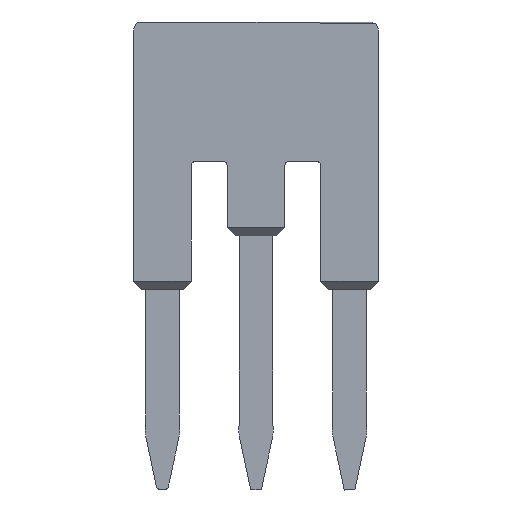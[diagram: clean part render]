
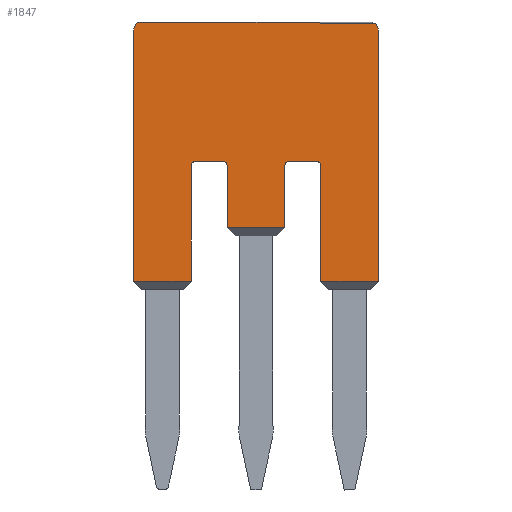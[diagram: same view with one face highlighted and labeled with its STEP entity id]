
A CAD part, front view. The second image highlights one B-rep face of the part: STEP entity #1847.
In plain terms, the highlighted planar face has unit normal (0, -1, 0).
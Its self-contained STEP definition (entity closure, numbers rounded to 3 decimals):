
#29 = VERTEX_POINT ( 'NONE', #2501 ) ;
#85 = CARTESIAN_POINT ( 'NONE',  ( 31.5, -1.45, 12.104 ) ) ;
#87 = DIRECTION ( 'NONE',  ( 0., 0., -1. ) ) ;
#161 = EDGE_CURVE ( 'NONE', #841, #645, #207, .T. ) ;
#204 = CIRCLE ( 'NONE', #777, 0.2 ) ;
#207 = LINE ( 'NONE', #2734, #2737 ) ;
#226 = CARTESIAN_POINT ( 'NONE',  ( 24.661, -1.45, 17.47 ) ) ;
#236 = EDGE_CURVE ( 'NONE', #1590, #1939, #1963, .T. ) ;
#244 = CARTESIAN_POINT ( 'NONE',  ( 27.8, -1.45, 12.104 ) ) ;
#258 = CARTESIAN_POINT ( 'NONE',  ( 24.5, -1.45, 17.204 ) ) ;
#269 = CARTESIAN_POINT ( 'NONE',  ( 33.489, -1.45, 17.466 ) ) ;
#314 = ORIENTED_EDGE ( 'NONE', *, *, #485, .F. ) ;
#328 = AXIS2_PLACEMENT_3D ( 'NONE', #1816, #2023, #2080 ) ;
#358 = VERTEX_POINT ( 'NONE', #2623 ) ;
#389 = VERTEX_POINT ( 'NONE', #2249 ) ;
#416 = CIRCLE ( 'NONE', #1008, 0.3 ) ;
#427 = CARTESIAN_POINT ( 'NONE',  ( 28., -1.45, 12.104 ) ) ;
#443 = ORIENTED_EDGE ( 'NONE', *, *, #761, .F. ) ;
#467 = CARTESIAN_POINT ( 'NONE',  ( 29.075, -1.45, 12.635 ) ) ;
#480 = VERTEX_POINT ( 'NONE', #427 ) ;
#485 = EDGE_CURVE ( 'NONE', #1139, #2723, #1036, .T. ) ;
#488 = CARTESIAN_POINT ( 'NONE',  ( 33.65, -1.45, 17.2 ) ) ;
#544 = VECTOR ( 'NONE', #720, 1000. ) ;
#545 = CARTESIAN_POINT ( 'NONE',  ( 26.65, -1.45, 12.104 ) ) ;
#626 = VERTEX_POINT ( 'NONE', #1570 ) ;
#639 = DIRECTION ( 'NONE',  ( 0., -1., 0. ) ) ;
#645 = VERTEX_POINT ( 'NONE', #2403 ) ;
#661 = ORIENTED_EDGE ( 'NONE', *, *, #236, .F. ) ;
#662 = LINE ( 'NONE', #2755, #1413 ) ;
#690 = CARTESIAN_POINT ( 'NONE',  ( 27.604, -1.45, 17.466 ) ) ;
#691 = DIRECTION ( 'NONE',  ( 0., -1., 0. ) ) ;
#704 = CARTESIAN_POINT ( 'NONE',  ( 33.65, -1.45, 17.2 ) ) ;
#720 = DIRECTION ( 'NONE',  ( 0., 0., -1. ) ) ;
#744 = VERTEX_POINT ( 'NONE', #488 ) ;
#761 = EDGE_CURVE ( 'NONE', #1163, #2302, #781, .T. ) ;
#777 = AXIS2_PLACEMENT_3D ( 'NONE', #244, #691, #1107 ) ;
#778 = VECTOR ( 'NONE', #1435, 1000. ) ;
#781 = B_SPLINE_CURVE_WITH_KNOTS ( 'NONE', 3,
 ( #1311, #690, #1336, #269 ),
 .UNSPECIFIED., .F., .F.,
 ( 4, 4 ),
 ( 0., 1. ),
 .UNSPECIFIED. ) ;
#801 = ORIENTED_EDGE ( 'NONE', *, *, #802, .F. ) ;
#802 = EDGE_CURVE ( 'NONE', #29, #358, #976, .T. ) ;
#804 = CARTESIAN_POINT ( 'NONE',  ( 31.3, -1.45, 12.304 ) ) ;
#813 = EDGE_CURVE ( 'NONE', #2149, #480, #1628, .T. ) ;
#832 = AXIS2_PLACEMENT_3D ( 'NONE', #2465, #1406, #2042 ) ;
#833 = EDGE_CURVE ( 'NONE', #2302, #744, #416, .T. ) ;
#841 = VERTEX_POINT ( 'NONE', #946 ) ;
#866 = VERTEX_POINT ( 'NONE', #1799 ) ;
#869 = LINE ( 'NONE', #704, #544 ) ;
#880 = VECTOR ( 'NONE', #2421, 1000. ) ;
#906 = LINE ( 'NONE', #2610, #880 ) ;
#910 = VECTOR ( 'NONE', #87, 1000. ) ;
#911 = CARTESIAN_POINT ( 'NONE',  ( 31.5, -1.45, 7.8 ) ) ;
#919 = DIRECTION ( 'NONE',  ( 0., -1., 0. ) ) ;
#925 = CIRCLE ( 'NONE', #832, 0.2 ) ;
#946 = CARTESIAN_POINT ( 'NONE',  ( 27.8, -1.45, 12.304 ) ) ;
#949 = ORIENTED_EDGE ( 'NONE', *, *, #813, .F. ) ;
#952 = ORIENTED_EDGE ( 'NONE', *, *, #2689, .F. ) ;
#976 = LINE ( 'NONE', #545, #778 ) ;
#1008 = AXIS2_PLACEMENT_3D ( 'NONE', #1829, #1225, #2669 ) ;
#1015 = EDGE_CURVE ( 'NONE', #2732, #389, #2716, .T. ) ;
#1020 = ORIENTED_EDGE ( 'NONE', *, *, #1831, .T. ) ;
#1036 = LINE ( 'NONE', #1660, #2173 ) ;
#1043 = EDGE_CURVE ( 'NONE', #1139, #866, #1520, .T. ) ;
#1047 = DIRECTION ( 'NONE',  ( 0., 0., 1. ) ) ;
#1056 = AXIS2_PLACEMENT_3D ( 'NONE', #2615, #2414, #1137 ) ;
#1069 = DIRECTION ( 'NONE',  ( -1., 0., 0. ) ) ;
#1107 = DIRECTION ( 'NONE',  ( 1., 0., 0. ) ) ;
#1117 = FACE_OUTER_BOUND ( 'NONE', #1836, .T. ) ;
#1137 = DIRECTION ( 'NONE',  ( -1., 0., 0. ) ) ;
#1139 = VERTEX_POINT ( 'NONE', #2183 ) ;
#1152 = ORIENTED_EDGE ( 'NONE', *, *, #2069, .F. ) ;
#1156 = PLANE ( 'NONE',  #2571 ) ;
#1162 = EDGE_CURVE ( 'NONE', #626, #1163, #1906, .T. ) ;
#1163 = VERTEX_POINT ( 'NONE', #226 ) ;
#1167 = CARTESIAN_POINT ( 'NONE',  ( 28., -1.45, 9.804 ) ) ;
#1169 = CARTESIAN_POINT ( 'NONE',  ( 31.3, -1.45, 12.304 ) ) ;
#1177 = ORIENTED_EDGE ( 'NONE', *, *, #2054, .F. ) ;
#1225 = DIRECTION ( 'NONE',  ( 0., 1., 0. ) ) ;
#1232 = ORIENTED_EDGE ( 'NONE', *, *, #1043, .T. ) ;
#1264 = ORIENTED_EDGE ( 'NONE', *, *, #833, .F. ) ;
#1270 = ORIENTED_EDGE ( 'NONE', *, *, #1421, .F. ) ;
#1280 = CIRCLE ( 'NONE', #2653, 0.2 ) ;
#1311 = CARTESIAN_POINT ( 'NONE',  ( 24.661, -1.45, 17.47 ) ) ;
#1321 = VECTOR ( 'NONE', #2124, 1000. ) ;
#1336 = CARTESIAN_POINT ( 'NONE',  ( 30.546, -1.45, 17.466 ) ) ;
#1339 = CARTESIAN_POINT ( 'NONE',  ( 30.15, -1.45, 12.104 ) ) ;
#1353 = ORIENTED_EDGE ( 'NONE', *, *, #1162, .F. ) ;
#1406 = DIRECTION ( 'NONE',  ( 0., -1., 0. ) ) ;
#1413 = VECTOR ( 'NONE', #1501, 1000. ) ;
#1419 = CARTESIAN_POINT ( 'NONE',  ( 24.5, -1.45, 7.804 ) ) ;
#1421 = EDGE_CURVE ( 'NONE', #2723, #2732, #1280, .T. ) ;
#1435 = DIRECTION ( 'NONE',  ( 0., 0., -1. ) ) ;
#1472 = EDGE_CURVE ( 'NONE', #2149, #1939, #906, .T. ) ;
#1501 = DIRECTION ( 'NONE',  ( 1., 0., 0. ) ) ;
#1519 = ORIENTED_EDGE ( 'NONE', *, *, #1015, .F. ) ;
#1520 = LINE ( 'NONE', #911, #2038 ) ;
#1570 = CARTESIAN_POINT ( 'NONE',  ( 24.5, -1.45, 17.204 ) ) ;
#1586 = CARTESIAN_POINT ( 'NONE',  ( 30.15, -1.45, 9.804 ) ) ;
#1590 = VERTEX_POINT ( 'NONE', #1603 ) ;
#1603 = CARTESIAN_POINT ( 'NONE',  ( 30.15, -1.45, 12.104 ) ) ;
#1628 = LINE ( 'NONE', #1167, #2435 ) ;
#1634 = VECTOR ( 'NONE', #2194, 1000. ) ;
#1660 = CARTESIAN_POINT ( 'NONE',  ( 31.5, -1.45, 7.8 ) ) ;
#1768 = DIRECTION ( 'NONE',  ( 1., 0., 0. ) ) ;
#1799 = CARTESIAN_POINT ( 'NONE',  ( 33.65, -1.45, 7.8 ) ) ;
#1800 = DIRECTION ( 'NONE',  ( 0., 0., -1. ) ) ;
#1816 = CARTESIAN_POINT ( 'NONE',  ( 26.85, -1.45, 12.104 ) ) ;
#1829 = CARTESIAN_POINT ( 'NONE',  ( 33.35, -1.45, 17.2 ) ) ;
#1831 = EDGE_CURVE ( 'NONE', #626, #2298, #1888, .T. ) ;
#1836 = EDGE_LOOP ( 'NONE', ( #1353, #1020, #2387, #801, #1177, #2588, #2232, #949, #2762, #661, #1152, #1519, #1270, #314, #1232, #952, #1264, #443 ) ) ;
#1847 = ADVANCED_FACE ( 'NONE', ( #1117 ), #1156, .T. ) ;
#1888 = LINE ( 'NONE', #258, #1634 ) ;
#1906 = CIRCLE ( 'NONE', #1056, 0.3 ) ;
#1922 = EDGE_CURVE ( 'NONE', #480, #841, #204, .T. ) ;
#1939 = VERTEX_POINT ( 'NONE', #1586 ) ;
#1963 = LINE ( 'NONE', #1339, #910 ) ;
#1964 = DIRECTION ( 'NONE',  ( 1., 0., 0. ) ) ;
#2023 = DIRECTION ( 'NONE',  ( 0., -1., 0. ) ) ;
#2038 = VECTOR ( 'NONE', #1768, 1000. ) ;
#2041 = DIRECTION ( 'NONE',  ( 0., 0., 1. ) ) ;
#2042 = DIRECTION ( 'NONE',  ( 0., 0., 1. ) ) ;
#2054 = EDGE_CURVE ( 'NONE', #645, #29, #2137, .T. ) ;
#2069 = EDGE_CURVE ( 'NONE', #389, #1590, #925, .T. ) ;
#2080 = DIRECTION ( 'NONE',  ( 0., 0., 1. ) ) ;
#2124 = DIRECTION ( 'NONE',  ( -1., 0., 0. ) ) ;
#2137 = CIRCLE ( 'NONE', #328, 0.2 ) ;
#2149 = VERTEX_POINT ( 'NONE', #2746 ) ;
#2173 = VECTOR ( 'NONE', #1047, 1000. ) ;
#2183 = CARTESIAN_POINT ( 'NONE',  ( 31.5, -1.45, 7.8 ) ) ;
#2194 = DIRECTION ( 'NONE',  ( 0., 0., -1. ) ) ;
#2232 = ORIENTED_EDGE ( 'NONE', *, *, #1922, .F. ) ;
#2249 = CARTESIAN_POINT ( 'NONE',  ( 30.35, -1.45, 12.304 ) ) ;
#2298 = VERTEX_POINT ( 'NONE', #1419 ) ;
#2302 = VERTEX_POINT ( 'NONE', #2666 ) ;
#2387 = ORIENTED_EDGE ( 'NONE', *, *, #2513, .T. ) ;
#2403 = CARTESIAN_POINT ( 'NONE',  ( 26.85, -1.45, 12.304 ) ) ;
#2414 = DIRECTION ( 'NONE',  ( 0., 1., 0. ) ) ;
#2421 = DIRECTION ( 'NONE',  ( 1., 0., 0. ) ) ;
#2435 = VECTOR ( 'NONE', #2041, 1000. ) ;
#2465 = CARTESIAN_POINT ( 'NONE',  ( 30.35, -1.45, 12.104 ) ) ;
#2501 = CARTESIAN_POINT ( 'NONE',  ( 26.65, -1.45, 12.104 ) ) ;
#2513 = EDGE_CURVE ( 'NONE', #2298, #358, #662, .T. ) ;
#2555 = CARTESIAN_POINT ( 'NONE',  ( 31.3, -1.45, 12.104 ) ) ;
#2571 = AXIS2_PLACEMENT_3D ( 'NONE', #467, #919, #1800 ) ;
#2588 = ORIENTED_EDGE ( 'NONE', *, *, #161, .F. ) ;
#2610 = CARTESIAN_POINT ( 'NONE',  ( 28., -1.45, 9.804 ) ) ;
#2615 = CARTESIAN_POINT ( 'NONE',  ( 24.8, -1.45, 17.204 ) ) ;
#2623 = CARTESIAN_POINT ( 'NONE',  ( 26.65, -1.45, 7.804 ) ) ;
#2653 = AXIS2_PLACEMENT_3D ( 'NONE', #2555, #639, #1964 ) ;
#2666 = CARTESIAN_POINT ( 'NONE',  ( 33.489, -1.45, 17.466 ) ) ;
#2669 = DIRECTION ( 'NONE',  ( 0.463, 0., 0.886 ) ) ;
#2689 = EDGE_CURVE ( 'NONE', #744, #866, #869, .T. ) ;
#2716 = LINE ( 'NONE', #804, #1321 ) ;
#2723 = VERTEX_POINT ( 'NONE', #85 ) ;
#2732 = VERTEX_POINT ( 'NONE', #1169 ) ;
#2734 = CARTESIAN_POINT ( 'NONE',  ( 27.8, -1.45, 12.304 ) ) ;
#2737 = VECTOR ( 'NONE', #1069, 1000. ) ;
#2746 = CARTESIAN_POINT ( 'NONE',  ( 28., -1.45, 9.804 ) ) ;
#2755 = CARTESIAN_POINT ( 'NONE',  ( 24.5, -1.45, 7.804 ) ) ;
#2762 = ORIENTED_EDGE ( 'NONE', *, *, #1472, .T. ) ;
